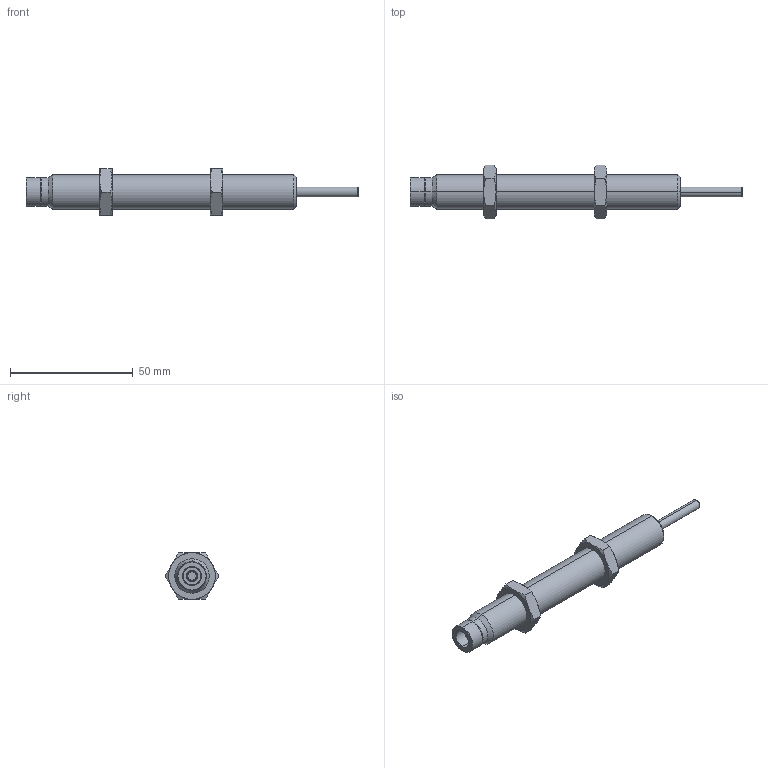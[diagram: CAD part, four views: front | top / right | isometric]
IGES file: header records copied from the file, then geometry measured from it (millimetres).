
Start section: SolidWorks IGES file using analytic representation for surfaces
Global section: file name: D:\IGS跡宒\AC1425-N.IGS,1; native system: 5HSolidWorks 2013; preprocessor: SolidWorks 2013; author: Administrator; date: 160406.151940; units: inch
Bounding box: 135.1 x 21.94 x 19 mm (x, y, z)
Surface area: 9400.3 mm2 (no closed solid volume)
Topology: 0 solids, 0 shells, 88 faces, 1264 edges, 1264 vertices
Faces by surface type: revolution 66, bspline 22
